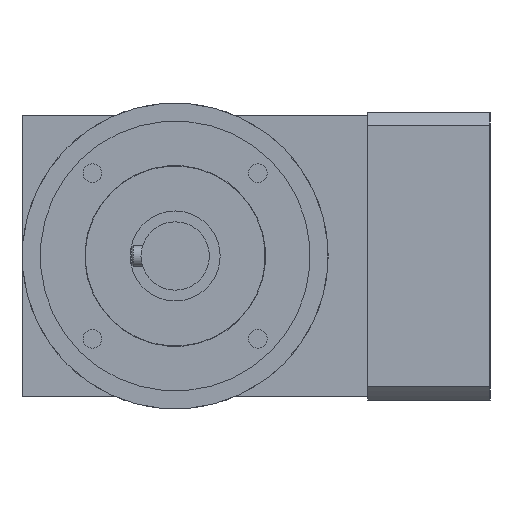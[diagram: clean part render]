
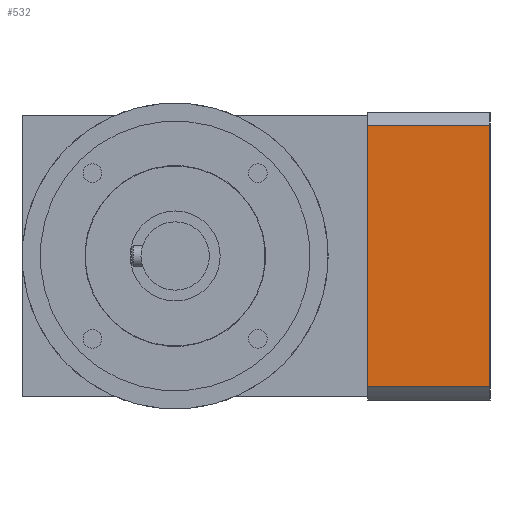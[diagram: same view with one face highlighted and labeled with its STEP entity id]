
A CAD part, left-side view. The second image highlights one B-rep face of the part: STEP entity #532.
In plain terms, the highlighted planar face has unit normal (-1, 0, 0).
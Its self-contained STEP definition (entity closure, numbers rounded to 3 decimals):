
#116=LINE('',#2520,#186);
#117=LINE('',#2535,#187);
#127=LINE('',#2560,#197);
#128=LINE('',#2561,#198);
#186=VECTOR('',#2019,1.);
#187=VECTOR('',#2034,1.);
#197=VECTOR('',#2060,1.);
#198=VECTOR('',#2061,1.);
#532=ADVANCED_FACE('',(#689),#640,.T.);
#640=PLANE('',#1749);
#689=FACE_OUTER_BOUND('',#775,.T.);
#775=EDGE_LOOP('',(#1014,#1015,#1016,#1017));
#1014=ORIENTED_EDGE('',*,*,#1472,.F.);
#1015=ORIENTED_EDGE('',*,*,#1451,.T.);
#1016=ORIENTED_EDGE('',*,*,#1473,.F.);
#1017=ORIENTED_EDGE('',*,*,#1458,.T.);
#1295=VERTEX_POINT('',#2507);
#1301=VERTEX_POINT('',#2519);
#1307=VERTEX_POINT('',#2533);
#1309=VERTEX_POINT('',#2536);
#1451=EDGE_CURVE('',#1295,#1301,#116,.T.);
#1458=EDGE_CURVE('',#1309,#1307,#117,.T.);
#1472=EDGE_CURVE('',#1295,#1307,#127,.T.);
#1473=EDGE_CURVE('',#1309,#1301,#128,.T.);
#1749=AXIS2_PLACEMENT_3D('',#2562,#2062,#2063);
#2019=DIRECTION('',(0.,0.,-1.));
#2034=DIRECTION('',(0.,0.,1.));
#2060=DIRECTION('',(0.,-1.,0.));
#2061=DIRECTION('',(0.,1.,0.));
#2062=DIRECTION('',(-1.,0.,0.));
#2063=DIRECTION('',(0.,1.,0.));
#2507=CARTESIAN_POINT('',(20.05,-53.45,36.277));
#2519=CARTESIAN_POINT('',(20.05,-53.45,-36.277));
#2520=CARTESIAN_POINT('',(20.05,-53.45,0.));
#2533=CARTESIAN_POINT('',(20.05,-87.45,36.277));
#2535=CARTESIAN_POINT('',(20.05,-87.45,0.));
#2536=CARTESIAN_POINT('',(20.05,-87.45,-36.277));
#2560=CARTESIAN_POINT('',(20.05,-103.45,36.277));
#2561=CARTESIAN_POINT('',(20.05,-103.45,-36.277));
#2562=CARTESIAN_POINT('',(20.05,-53.45,0.));
